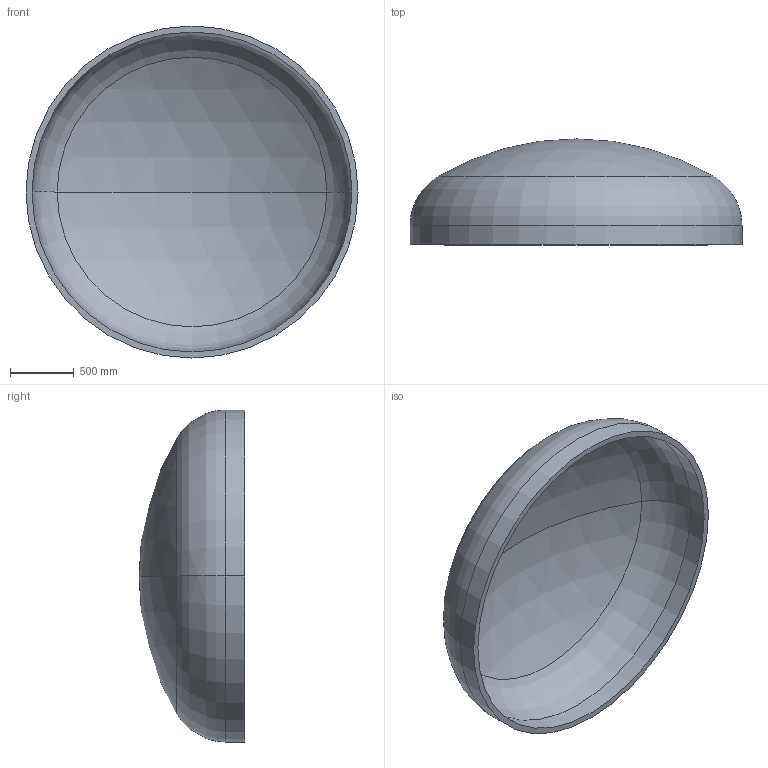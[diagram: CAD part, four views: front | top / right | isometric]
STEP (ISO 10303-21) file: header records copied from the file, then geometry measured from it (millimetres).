
FILE_DESCRIPTION (( 'STEP AP203' ), '1' );
FILE_NAME ('DIN 28013 Korbbogenform_-_Boden DIN 28013 - 2600 x 150 - I - s=47.step', '2016-07-01T16:14:23', ( '' ), ( '' ), 'SwSTEP 2.0', 'SolidWorks 2013', '' );
FILE_SCHEMA (( 'CONFIG_CONTROL_DESIGN' ));
Length unit declared in the file: millimetre
Products named in the file (1): DIN 28013 Korbbogenform_-_Boden DIN 28013 - 2600 x 150 - I - s=47
Bounding box: 2600 x 829.66 x 2600 mm (x, y, z)
Volume: 393944214.3 mm3; surface area: 17145167.5 mm2
Topology: 1 solids, 1 shells, 13 faces, 24 edges, 14 vertices
Faces by surface type: torus 4, cylinder 4, sphere 4, plane 1
Entity records: 407 total; most frequent: DIRECTION 72, CARTESIAN_POINT 52, ORIENTED_EDGE 48, AXIS2_PLACEMENT_3D 34, EDGE_CURVE 24, CIRCLE 20, VERTEX_POINT 14, EDGE_LOOP 14
